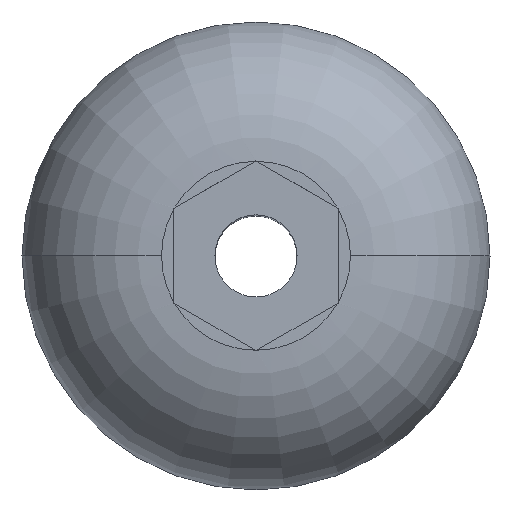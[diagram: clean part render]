
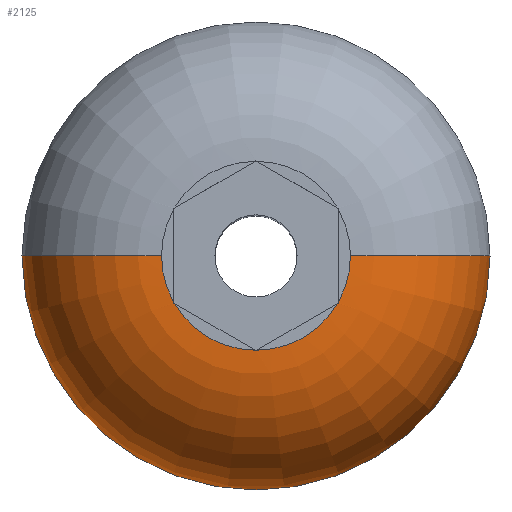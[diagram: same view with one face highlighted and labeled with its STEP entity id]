
A CAD part, top view. The second image highlights one B-rep face of the part: STEP entity #2125.
In plain terms, the highlighted toroidal (fillet/blend) face has major radius 1.151 mm and minor radius 1.7 mm.
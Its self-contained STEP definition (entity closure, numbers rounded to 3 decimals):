
#13 = VERTEX_POINT ( 'NONE', #1181 ) ;
#50 = CARTESIAN_POINT ( 'NONE',  ( -1., -0.569, 1.65 ) ) ;
#63 = AXIS2_PLACEMENT_3D ( 'NONE', #407, #393, #1440 ) ;
#95 = VERTEX_POINT ( 'NONE', #703 ) ;
#129 = CARTESIAN_POINT ( 'NONE',  ( -2.85, 0., 0. ) ) ;
#130 = EDGE_CURVE ( 'NONE', #2044, #95, #1435, .T. ) ;
#144 = DIRECTION ( 'NONE',  ( 0., 0., 1. ) ) ;
#160 = CARTESIAN_POINT ( 'NONE',  ( 0., -1.155, 1.65 ) ) ;
#161 = ORIENTED_EDGE ( 'NONE', *, *, #1238, .T. ) ;
#164 = CARTESIAN_POINT ( 'NONE',  ( -1., -0.577, 1.65 ) ) ;
#167 = CARTESIAN_POINT ( 'NONE',  ( 1., -0.577, 1.65 ) ) ;
#169 = VERTEX_POINT ( 'NONE', #1735 ) ;
#172 = CARTESIAN_POINT ( 'NONE',  ( 0., 0., 0. ) ) ;
#195 = CIRCLE ( 'NONE', #1663, 1.7 ) ;
#229 = B_SPLINE_CURVE_WITH_KNOTS ( 'NONE', 3,
 ( #167, #1557, #1183, #841 ),
 .UNSPECIFIED., .F., .F.,
 ( 4, 4 ),
 ( 0., 0. ),
 .UNSPECIFIED. ) ;
#232 = CIRCLE ( 'NONE', #63, 1.7 ) ;
#242 = VERTEX_POINT ( 'NONE', #469 ) ;
#243 = CARTESIAN_POINT ( 'NONE',  ( 0., -1.155, 1.65 ) ) ;
#288 = DIRECTION ( 'NONE',  ( 0., 0., 1. ) ) ;
#305 = DIRECTION ( 'NONE',  ( 1., 0., 0. ) ) ;
#320 = DIRECTION ( 'NONE',  ( 0., 1., 0. ) ) ;
#344 = DIRECTION ( 'NONE',  ( 1., 0., 0. ) ) ;
#346 = CIRCLE ( 'NONE', #980, 1.151 ) ;
#351 = CARTESIAN_POINT ( 'NONE',  ( -1., -0.576, 1.65 ) ) ;
#383 = EDGE_CURVE ( 'NONE', #1623, #242, #232, .T. ) ;
#393 = DIRECTION ( 'NONE',  ( 0., 1., 0. ) ) ;
#407 = CARTESIAN_POINT ( 'NONE',  ( -1.151, 0., -0.05 ) ) ;
#432 = ORIENTED_EDGE ( 'NONE', *, *, #1932, .T. ) ;
#457 = DIRECTION ( 'NONE',  ( 0., -1., 0. ) ) ;
#469 = CARTESIAN_POINT ( 'NONE',  ( -1.151, 0., 1.65 ) ) ;
#496 = FACE_OUTER_BOUND ( 'NONE', #858, .T. ) ;
#521 = CARTESIAN_POINT ( 'NONE',  ( 0., 0., 1.65 ) ) ;
#572 = ORIENTED_EDGE ( 'NONE', *, *, #1802, .F. ) ;
#586 = EDGE_CURVE ( 'NONE', #1186, #1122, #747, .T. ) ;
#592 = VERTEX_POINT ( 'NONE', #2030 ) ;
#662 = VERTEX_POINT ( 'NONE', #1413 ) ;
#678 = AXIS2_PLACEMENT_3D ( 'NONE', #521, #1684, #1701 ) ;
#703 = CARTESIAN_POINT ( 'NONE',  ( -0.007, -1.151, 1.65 ) ) ;
#739 = DIRECTION ( 'NONE',  ( 0., 0., 1. ) ) ;
#747 = B_SPLINE_CURVE_WITH_KNOTS ( 'NONE', 3,
 ( #164, #351, #1059, #1261, #50 ),
 .UNSPECIFIED., .F., .F.,
 ( 4, 1, 4 ),
 ( 0.014, 0.014, 0.014 ),
 .UNSPECIFIED. ) ;
#760 = ORIENTED_EDGE ( 'NONE', *, *, #1075, .F. ) ;
#773 = ORIENTED_EDGE ( 'NONE', *, *, #1590, .F. ) ;
#805 = ORIENTED_EDGE ( 'NONE', *, *, #1068, .F. ) ;
#841 = CARTESIAN_POINT ( 'NONE',  ( 0.993, -0.581, 1.65 ) ) ;
#842 = CARTESIAN_POINT ( 'NONE',  ( 0., 0., -0.05 ) ) ;
#845 = EDGE_CURVE ( 'NONE', #2044, #662, #1134, .T. ) ;
#855 = CARTESIAN_POINT ( 'NONE',  ( -0.002, -1.153, 1.65 ) ) ;
#858 = EDGE_LOOP ( 'NONE', ( #916, #939, #432, #1031, #773, #161, #805, #1974, #2110, #572, #1851, #860, #760 ) ) ;
#860 = ORIENTED_EDGE ( 'NONE', *, *, #586, .T. ) ;
#916 = ORIENTED_EDGE ( 'NONE', *, *, #383, .F. ) ;
#935 = AXIS2_PLACEMENT_3D ( 'NONE', #842, #1853, #305 ) ;
#939 = ORIENTED_EDGE ( 'NONE', *, *, #1726, .T. ) ;
#942 = VERTEX_POINT ( 'NONE', #1630 ) ;
#980 = AXIS2_PLACEMENT_3D ( 'NONE', #1508, #288, #1847 ) ;
#1006 = CARTESIAN_POINT ( 'NONE',  ( 2.85, 0., 0. ) ) ;
#1031 = ORIENTED_EDGE ( 'NONE', *, *, #2050, .F. ) ;
#1059 = CARTESIAN_POINT ( 'NONE',  ( -1., -0.573, 1.65 ) ) ;
#1068 = EDGE_CURVE ( 'NONE', #662, #1515, #1235, .T. ) ;
#1075 = EDGE_CURVE ( 'NONE', #242, #1122, #346, .T. ) ;
#1114 = VECTOR ( 'NONE', #1271, 1000. ) ;
#1122 = VERTEX_POINT ( 'NONE', #1180 ) ;
#1134 = LINE ( 'NONE', #243, #1114 ) ;
#1179 = AXIS2_PLACEMENT_3D ( 'NONE', #1761, #739, #2130 ) ;
#1180 = CARTESIAN_POINT ( 'NONE',  ( -1., -0.569, 1.65 ) ) ;
#1181 = CARTESIAN_POINT ( 'NONE',  ( 1., -0.577, 1.65 ) ) ;
#1183 = CARTESIAN_POINT ( 'NONE',  ( 0.995, -0.58, 1.65 ) ) ;
#1186 = VERTEX_POINT ( 'NONE', #2236 ) ;
#1202 = CARTESIAN_POINT ( 'NONE',  ( 0., -1.155, 1.65 ) ) ;
#1222 = DIRECTION ( 'NONE',  ( 0., 0., 1. ) ) ;
#1235 = CIRCLE ( 'NONE', #1275, 1.151 ) ;
#1238 = EDGE_CURVE ( 'NONE', #13, #1515, #229, .T. ) ;
#1261 = CARTESIAN_POINT ( 'NONE',  ( -1., -0.571, 1.65 ) ) ;
#1271 = DIRECTION ( 'NONE',  ( 0.866, 0.5, 0. ) ) ;
#1275 = AXIS2_PLACEMENT_3D ( 'NONE', #2191, #144, #1353 ) ;
#1353 = DIRECTION ( 'NONE',  ( 1., 0., 0. ) ) ;
#1413 = CARTESIAN_POINT ( 'NONE',  ( 0.007, -1.151, 1.65 ) ) ;
#1435 = B_SPLINE_CURVE_WITH_KNOTS ( 'NONE', 3,
 ( #160, #855, #1902, #2093 ),
 .UNSPECIFIED., .F., .F.,
 ( 4, 4 ),
 ( 0., 0. ),
 .UNSPECIFIED. ) ;
#1440 = DIRECTION ( 'NONE',  ( -1., 0., 0. ) ) ;
#1495 = VECTOR ( 'NONE', #2075, 1000. ) ;
#1508 = CARTESIAN_POINT ( 'NONE',  ( 0., 0., 1.65 ) ) ;
#1515 = VERTEX_POINT ( 'NONE', #2009 ) ;
#1517 = CARTESIAN_POINT ( 'NONE',  ( 1., -0.577, 1.65 ) ) ;
#1557 = CARTESIAN_POINT ( 'NONE',  ( 0.998, -0.579, 1.65 ) ) ;
#1579 = VERTEX_POINT ( 'NONE', #1006 ) ;
#1590 = EDGE_CURVE ( 'NONE', #13, #169, #1719, .T. ) ;
#1623 = VERTEX_POINT ( 'NONE', #129 ) ;
#1630 = CARTESIAN_POINT ( 'NONE',  ( 1.151, 0., 1.65 ) ) ;
#1663 = AXIS2_PLACEMENT_3D ( 'NONE', #1835, #457, #2018 ) ;
#1684 = DIRECTION ( 'NONE',  ( 0., 0., 1. ) ) ;
#1688 = VECTOR ( 'NONE', #320, 1000. ) ;
#1701 = DIRECTION ( 'NONE',  ( 1., 0., 0. ) ) ;
#1710 = EDGE_CURVE ( 'NONE', #1186, #592, #2043, .T. ) ;
#1719 = LINE ( 'NONE', #1517, #1688 ) ;
#1726 = EDGE_CURVE ( 'NONE', #1623, #1579, #2013, .T. ) ;
#1735 = CARTESIAN_POINT ( 'NONE',  ( 1., -0.569, 1.65 ) ) ;
#1761 = CARTESIAN_POINT ( 'NONE',  ( 0., 0., 1.65 ) ) ;
#1764 = TOROIDAL_SURFACE ( 'NONE', #935, 1.151, 1.7 ) ;
#1779 = AXIS2_PLACEMENT_3D ( 'NONE', #172, #1222, #344 ) ;
#1802 = EDGE_CURVE ( 'NONE', #592, #95, #2131, .T. ) ;
#1835 = CARTESIAN_POINT ( 'NONE',  ( 1.151, 0., -0.05 ) ) ;
#1847 = DIRECTION ( 'NONE',  ( 1., 0., 0. ) ) ;
#1851 = ORIENTED_EDGE ( 'NONE', *, *, #1710, .F. ) ;
#1853 = DIRECTION ( 'NONE',  ( 0., 0., 1. ) ) ;
#1901 = CARTESIAN_POINT ( 'NONE',  ( -1., -0.577, 1.65 ) ) ;
#1902 = CARTESIAN_POINT ( 'NONE',  ( -0.005, -1.152, 1.65 ) ) ;
#1932 = EDGE_CURVE ( 'NONE', #1579, #942, #195, .T. ) ;
#1974 = ORIENTED_EDGE ( 'NONE', *, *, #845, .F. ) ;
#2009 = CARTESIAN_POINT ( 'NONE',  ( 0.993, -0.581, 1.65 ) ) ;
#2013 = CIRCLE ( 'NONE', #1779, 2.85 ) ;
#2018 = DIRECTION ( 'NONE',  ( 0., 0., -1. ) ) ;
#2030 = CARTESIAN_POINT ( 'NONE',  ( -0.993, -0.581, 1.65 ) ) ;
#2043 = LINE ( 'NONE', #1901, #1495 ) ;
#2044 = VERTEX_POINT ( 'NONE', #1202 ) ;
#2050 = EDGE_CURVE ( 'NONE', #169, #942, #2221, .T. ) ;
#2075 = DIRECTION ( 'NONE',  ( 0.866, -0.5, 0. ) ) ;
#2093 = CARTESIAN_POINT ( 'NONE',  ( -0.007, -1.151, 1.65 ) ) ;
#2110 = ORIENTED_EDGE ( 'NONE', *, *, #130, .T. ) ;
#2125 = ADVANCED_FACE ( 'NONE', ( #496 ), #1764, .T. ) ;
#2130 = DIRECTION ( 'NONE',  ( 1., 0., 0. ) ) ;
#2131 = CIRCLE ( 'NONE', #1179, 1.151 ) ;
#2191 = CARTESIAN_POINT ( 'NONE',  ( 0., 0., 1.65 ) ) ;
#2221 = CIRCLE ( 'NONE', #678, 1.151 ) ;
#2236 = CARTESIAN_POINT ( 'NONE',  ( -1., -0.577, 1.65 ) ) ;
